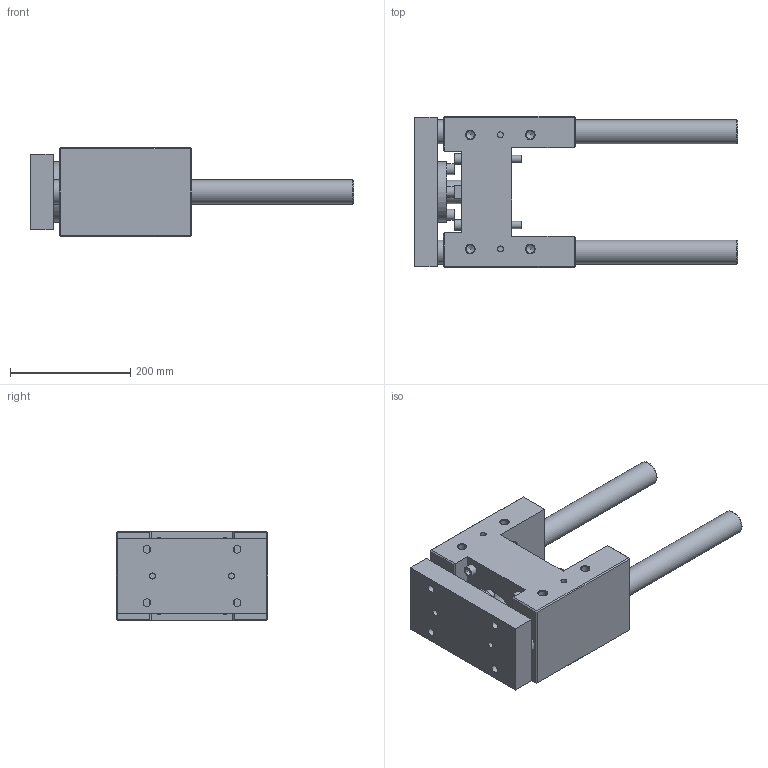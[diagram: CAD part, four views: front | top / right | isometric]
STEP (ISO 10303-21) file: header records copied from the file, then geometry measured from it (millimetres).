
FILE_DESCRIPTION( ( 'STEP AP214' ), '1' );
FILE_NAME( 'U:/Etudes/Top Solid/BIBLIO 3D AVM/TOP/PNEUMATIQUE/GUIDAGES/Type 32 (en H)/S_Lourde/320S5130.step', '2005-05-27T09:31:13', ( ' ' ), ( ' ' ), 'XStep 1.0', ' ', ' ' );
FILE_SCHEMA( ( 'automotive_design' ) );
Length unit declared in the file: metre
Products named in the file (2): 1; 2
Bounding box: 538 x 252 x 148 mm (x, y, z)
Volume: 6961866 mm3; surface area: 601226.4 mm2
Topology: 2 solids, 7 shells, 238 faces, 524 edges, 339 vertices
Faces by surface type: plane 149, cylinder 68, cone 21
Full cylindrical faces by diameter (mm): 10 x4, 10.106 x4, 12 x16, 13 x12, 13.835 x8, 18 x8, 20 x4, 24.835 x1, 39 x1, 40 x4, 42 x1, 57 x1, 60 x2, 65 x1, 100 x1
Entity records: 7905 total; most frequent: CARTESIAN_POINT 1198, DIRECTION 996, ORIENTED_EDGE 784, EDGE_CURVE 392, EDGE_LOOP 390, AXIS2_PLACEMENT_3D 372, FACE_OUTER_BOUND 306, VERTEX_POINT 302
